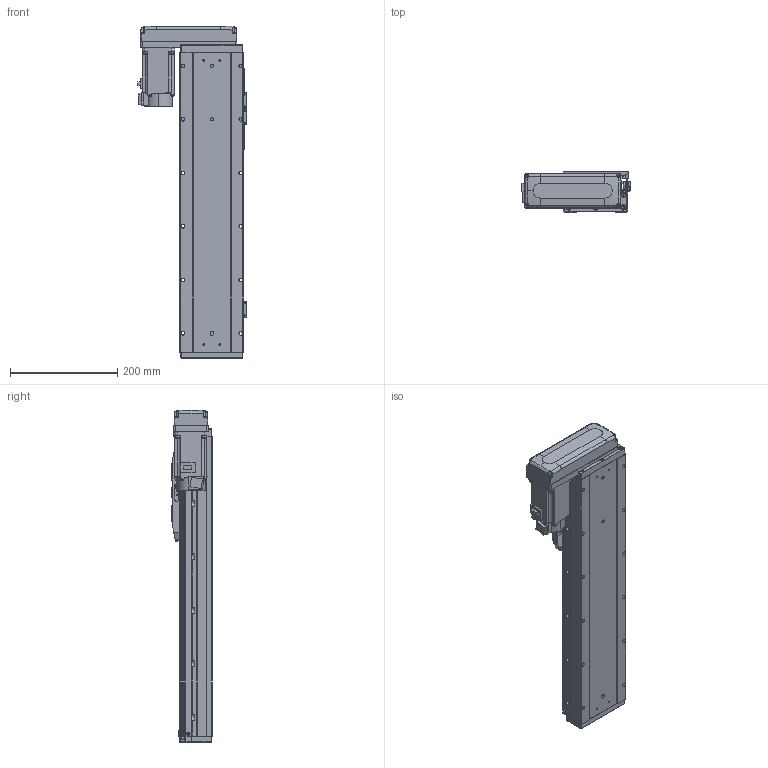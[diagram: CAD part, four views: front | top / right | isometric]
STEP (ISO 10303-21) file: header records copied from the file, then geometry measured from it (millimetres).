
FILE_DESCRIPTION (( 'STEP AP203' ), '1' );
FILE_NAME ('GTH12-350-BR-M40-C4.step', '2025-07-16T03:44:15', ( '' ), ( '' ), 'SwSTEP 2.0', 'SolidWorks 2023', '' );
FILE_SCHEMA (( 'CONFIG_CONTROL_DESIGN' ));
Length unit declared in the file: millimetre
Products named in the file (18): GTH120-006; GTH80-022; hg-kn43j_-s100_; GTH120-003; BTH-M3X5X6; GTH120-001_350; GTH50-023; GBT 70.1-M5×16; GTH80-028; GTH120-027-1_GTH120-027-2; GTH50-024; GBT 70.3-M3×8; GTH120-004; GTH120-013; CTHA86-033_M40B; GTH12-350-BR-M40-C4; GBT96.1-2002 3×0.8; GBT 70.1-M3×6
Assembly tree (59 placements, depth 2):
  GTH12-350-BR-M40-C4
    GTH120-001_350
    GTH120-003
    GTH120-006
    GTH120-004
    GTH120-013
    GBT 70.1-M3×6  x14
    GBT 70.1-M5×16  x10
    GBT 70.3-M3×8  x4
    GTH80-022
    GTH80-028  x2
    GTH50-023  x3
    GTH50-024  x3
    GBT96.1-2002 3×0.8  x6
    BTH-M3X5X6  x8
    hg-kn43j_-s100_
    CTHA86-033_M40B
    GTH120-027-1_GTH120-027-2
Bounding box: 203.5 x 76 x 620.5 mm (x, y, z)
Volume: 4899406.5 mm3; surface area: 508803.4 mm2
Topology: 61 solids, 61 shells, 2384 faces, 5539 edges, 3397 vertices
Faces by surface type: plane 1240, cylinder 676, cone 280, torus 174, sphere 8, bspline 6
Entity records: 43729 total; most frequent: CARTESIAN_POINT 7406, DIRECTION 7207, ORIENTED_EDGE 6688, EDGE_CURVE 3344, AXIS2_PLACEMENT_3D 2519, VECTOR 2169, LINE 2169, VERTEX_POINT 2118
